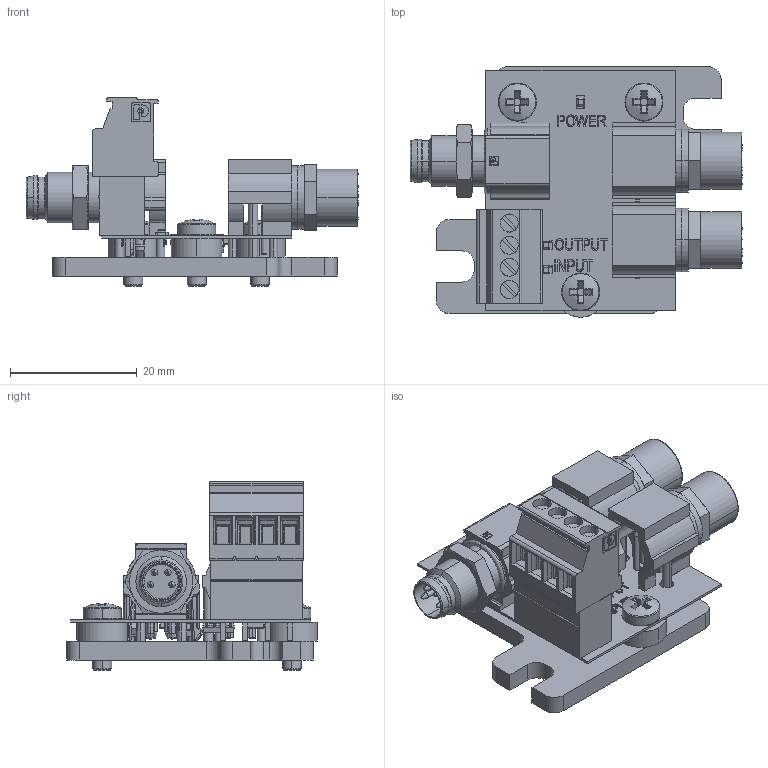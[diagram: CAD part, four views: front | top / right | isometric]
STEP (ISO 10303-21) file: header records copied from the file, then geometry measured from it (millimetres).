
FILE_DESCRIPTION (( 'STEP AP214' ), '1' );
FILE_NAME ('IOX.STEP', '2019-10-30T12:01:50', ( '' ), ( '' ), 'SwSTEP 2.0', 'SolidWorks 2017', '' );
FILE_SCHEMA (( 'AUTOMOTIVE_DESIGN' ));
Length unit declared in the file: millimetre
Products named in the file (5): vtulka; vtulka2; Split Ai2_1_pcb; ERSC_S_P; IOX
Assembly tree (9 placements, depth 2):
  IOX
    Split Ai2_1_pcb
    vtulka  x3
    ERSC_S_P
    vtulka2  x4
Bounding box: 52.48 x 39.6 x 29.77 mm (x, y, z)
Volume: 4101.8 mm3; surface area: 15282.2 mm2
Topology: 8 solids, 37 shells, 2739 faces, 6935 edges, 4298 vertices
Faces by surface type: plane 1279, bspline 783, cylinder 626, cone 33, torus 17, sphere 1
Entity records: 136218 total; most frequent: CARTESIAN_POINT 48356, ORIENTED_EDGE 13414, DIRECTION 10758, EDGE_CURVE 6710, VERTEX_POINT 4256, VECTOR 3870, LINE 3870, AXIS2_PLACEMENT_3D 3444
